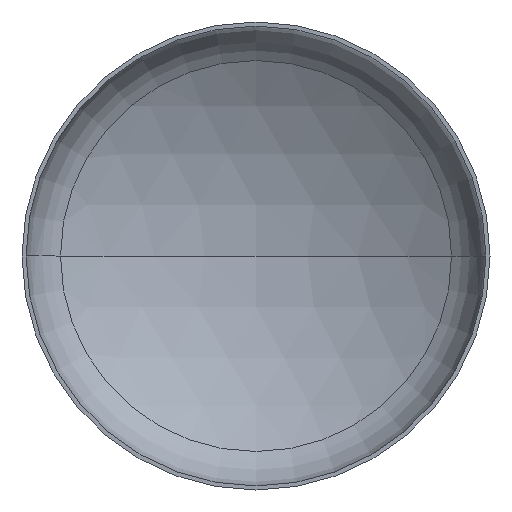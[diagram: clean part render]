
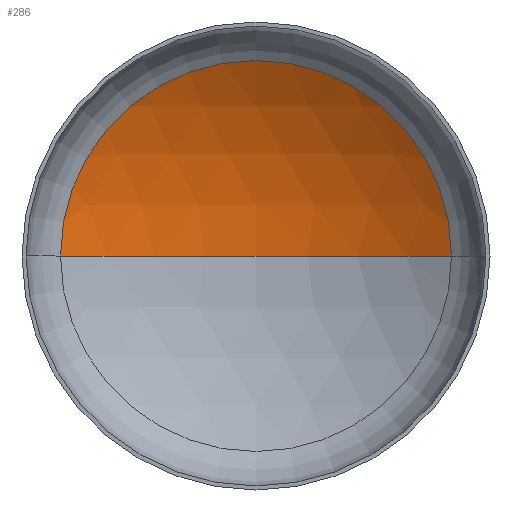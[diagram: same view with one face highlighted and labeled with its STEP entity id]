
A CAD part, front view. The second image highlights one B-rep face of the part: STEP entity #286.
In plain terms, the highlighted spherical face has radius 6400 mm.
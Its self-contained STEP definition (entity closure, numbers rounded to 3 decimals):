
#12 = ORIENTED_EDGE ( 'NONE', *, *, #101, .F. ) ;
#18 = VERTEX_POINT ( 'NONE', #42 ) ;
#39 = AXIS2_PLACEMENT_3D ( 'NONE', #382, #384, #117 ) ;
#42 = CARTESIAN_POINT ( 'NONE',  ( 3342.36, 1168.939, 0. ) ) ;
#62 = AXIS2_PLACEMENT_3D ( 'NONE', #288, #287, #210 ) ;
#66 = AXIS2_PLACEMENT_3D ( 'NONE', #278, #177, #186 ) ;
#68 = VERTEX_POINT ( 'NONE', #229 ) ;
#69 = AXIS2_PLACEMENT_3D ( 'NONE', #297, #295, #293 ) ;
#97 = EDGE_CURVE ( 'NONE', #18, #125, #180, .T. ) ;
#98 = EDGE_CURVE ( 'NONE', #68, #18, #409, .T. ) ;
#101 = EDGE_CURVE ( 'NONE', #68, #125, #352, .T. ) ;
#117 = DIRECTION ( 'NONE',  ( -1., 0., 0. ) ) ;
#122 = ORIENTED_EDGE ( 'NONE', *, *, #97, .T. ) ;
#125 = VERTEX_POINT ( 'NONE', #203 ) ;
#129 = ORIENTED_EDGE ( 'NONE', *, *, #98, .T. ) ;
#137 = EDGE_LOOP ( 'NONE', ( #12, #129, #122 ) ) ;
#177 = DIRECTION ( 'NONE',  ( 0., 0., -1. ) ) ;
#180 = CIRCLE ( 'NONE', #69, 3342.36 ) ;
#186 = DIRECTION ( 'NONE',  ( -1., 0., 0. ) ) ;
#203 = CARTESIAN_POINT ( 'NONE',  ( -3342.36, 1168.939, 0. ) ) ;
#210 = DIRECTION ( 'NONE',  ( 1., 0., 0. ) ) ;
#211 = SPHERICAL_SURFACE ( 'NONE', #39, 6400. ) ;
#229 = CARTESIAN_POINT ( 'NONE',  ( 0., 2111.043, 0. ) ) ;
#278 = CARTESIAN_POINT ( 'NONE',  ( 0., -4288.957, 0. ) ) ;
#286 = ADVANCED_FACE ( 'NONE', ( #330 ), #211, .F. ) ;
#287 = DIRECTION ( 'NONE',  ( 0., 0., 1. ) ) ;
#288 = CARTESIAN_POINT ( 'NONE',  ( 0., -4288.957, 0. ) ) ;
#293 = DIRECTION ( 'NONE',  ( 1., 0., 0. ) ) ;
#295 = DIRECTION ( 'NONE',  ( 0., -1., 0. ) ) ;
#297 = CARTESIAN_POINT ( 'NONE',  ( 0., 1168.939, 0. ) ) ;
#330 = FACE_OUTER_BOUND ( 'NONE', #137, .T. ) ;
#352 = CIRCLE ( 'NONE', #62, 6400. ) ;
#382 = CARTESIAN_POINT ( 'NONE',  ( 0., -4288.957, 0. ) ) ;
#384 = DIRECTION ( 'NONE',  ( 0., 0., -1. ) ) ;
#409 = CIRCLE ( 'NONE', #66, 6400. ) ;
